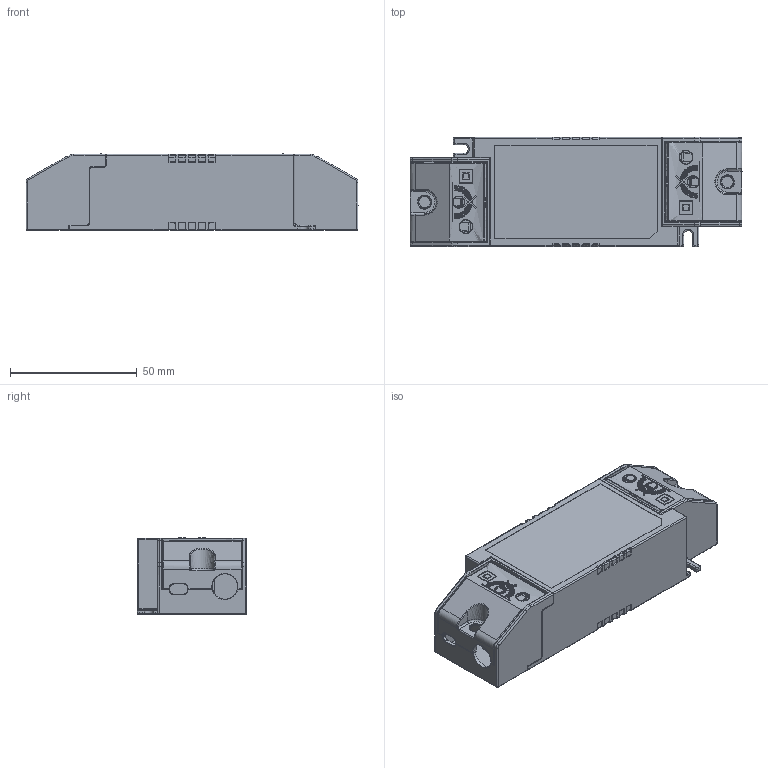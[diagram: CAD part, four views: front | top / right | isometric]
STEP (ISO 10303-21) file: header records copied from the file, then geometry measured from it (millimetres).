
FILE_DESCRIPTION(/* description */ (''),/* implementation_level */ '2;1');
FILE_NAME(/* name */ 'MI4D63~1',/* time_stamp */ '2023-07-06T14:13:30+08:00',/* author */ (''),/* organization */ (''),/* preprocessor_version */ 'ST-DEVELOPER v16.5',/* originating_system */ '',/* authorisation */ '');
FILE_SCHEMA (('AUTOMOTIVE_DESIGN'));
Length unit declared in the file: millimetre
Products named in the file (1): Document
Bounding box: 131 x 43.01 x 30.3 mm (x, y, z)
Volume: 118549.7 mm3; surface area: 37147.1 mm2
Topology: 3 solids, 3 shells, 1640 faces, 4144 edges, 2537 vertices
Faces by surface type: bspline 1193, plane 447
Entity records: 95914 total; most frequent: CARTESIAN_POINT 69938, ORIENTED_EDGE 8288, EDGE_CURVE 4144, B_SPLINE_CURVE_WITH_KNOTS 3740, VERTEX_POINT 2537, EDGE_LOOP 1687, ADVANCED_FACE 1640, FACE_OUTER_BOUND 1640
